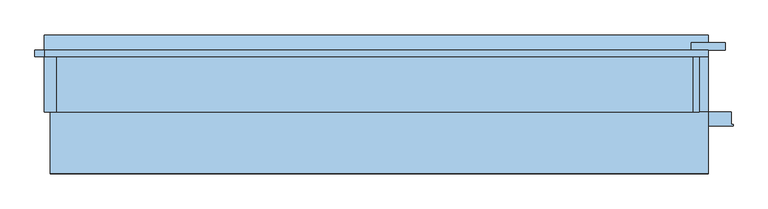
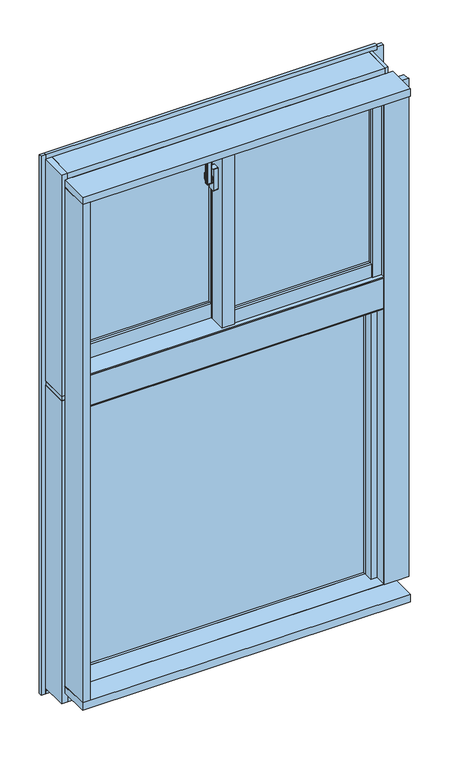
"""IFC4 building model written with IfcOpenShell, lengths in millimetres: window geometry, FNSⅡ100R_非防火_ALC枠_段窓_分解無目 : 引違/引違."""

from ifc_helpers import new_model, si_unit, point, frame, frame_2d, origin, place, context, project, spatial, polyline, circle_curve, trimmed, segment, composite_curve, outline, extrude, faceted_brep, source, transform, mapped, element, save
from ifc_brep_helpers import plane_surface, cylinder_surface, revolved_surface, advanced_brep


def window_f65690d7(model_context):
    return source(origin(), model_context, "Body", "SolidModel", [
        extrude(outline(composite_curve([segment(polyline([(-39.0, 14.6), (-39.0, 6.4)]), True, "CONTINUOUS"), segment(trimmed(circle_curve(frame_2d((-41.0, 6.4)), 2.0), [point((-39.0, 6.4))], [point((-41.3606557, 4.4327869))], False, "CARTESIAN"), True, "CONTINUOUS"), segment(polyline([(-41.3606557, 4.4327869), (-52.3606557, 6.4494536)]), True, "CONTINUOUS"), segment(trimmed(circle_curve(frame_2d((-52.0, 8.4166667)), 2.0), [point((-52.3606557, 6.4494536))], [point((-54.0, 8.4166667))], False, "CARTESIAN"), True, "CONTINUOUS"), segment(polyline([(-54.0, 8.4166667), (-54.0, 12.5833333)]), True, "CONTINUOUS"), segment(trimmed(circle_curve(frame_2d((-52.0, 12.5833333)), 2.0), [point((-54.0, 12.5833333))], [point((-52.3606557, 14.5505464))], False, "CARTESIAN"), True, "CONTINUOUS"), segment(polyline([(-52.3606557, 14.5505464), (-41.3606557, 16.5672131)]), True, "CONTINUOUS"), segment(trimmed(circle_curve(frame_2d((-41.0, 14.6)), 2.0), [point((-41.3606557, 16.5672131))], [point((-39.0, 14.6))], False, "CARTESIAN"), True, "CONTINUOUS")], self_intersect=False)), frame((0.0, 0.0, 2445.0), z_axis=(0.0, 0.0, 1.0), x_axis=(1.0, 0.0, 0.0)), (0.0, 0.0, 1.0), 100.0),
        advanced_brep(
        [(-37.5, 18.8234285, 2476.7333311), (-45.5, 18.8234285, 2476.7333311), (-45.5, 18.4351999, 2475.2844424), (-39.0, 18.4351999, 2475.2844424), (-39.0, 16.6234666, 2468.5229616), (-37.5, 16.6234666, 2468.5229616), (-39.0, 16.6466117, 2434.3190372), (-45.5, 16.6466117, 2434.3190372), (-45.5, 16.907084, 2432.8418256), (-37.5, 16.907084, 2432.8418256), (-37.5, 15.4310745, 2441.2126915), (-39.0, 15.4310745, 2441.2126915)],
        [
            (0, 1),
            (1, 2),
            (2, 3),
            (3, 4),
            (4, 5),
            (5, 0),
            (6, 7),
            (7, 8),
            (8, 9),
            (9, 10),
            (10, 11),
            (11, 6),
            (0, 9, circle_curve(frame((-37.5, 13.0, 2455.0), z_axis=(-1.0, 0.0, 0.0), x_axis=(0.0, 0.25881904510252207, 0.965925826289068)), 22.5)),
            (8, 1, circle_curve(frame((-45.5, 13.0, 2455.0), z_axis=(1.0, 0.0, 0.0), x_axis=(0.0, 0.25881904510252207, 0.965925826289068)), 22.5)),
            (7, 2, circle_curve(frame((-45.5, 13.0, 2455.0), z_axis=(1.0, 0.0, 0.0), x_axis=(0.0, 0.25881904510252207, 0.965925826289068)), 21.0)),
            (6, 3, circle_curve(frame((-39.0, 13.0, 2455.0), z_axis=(1.0, 0.0, 0.0), x_axis=(0.0, 0.25881904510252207, 0.965925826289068)), 21.0)),
            (11, 4, circle_curve(frame((-39.0, 13.0, 2455.0), z_axis=(-1.0, 0.0, 0.0), x_axis=(0.0, -1.0, 0.0)), 14.0)),
            (5, 10, circle_curve(frame((-37.5, 13.0, 2455.0), z_axis=(1.0, 0.0, 0.0), x_axis=(0.0, -1.0, 0.0)), 14.0)),
        ],
        [
            plane_surface(frame((-43.5470497, 13.0, 2455.0), z_axis=(0.0, -0.965925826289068, 0.25881904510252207), x_axis=(0.0, 0.25881904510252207, 0.965925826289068))),
            plane_surface(frame((-43.5470497, 13.0, 2455.0), z_axis=(0.0, -0.9848077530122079, -0.17364817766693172), x_axis=(0.0, 0.17364817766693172, -0.9848077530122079))),
            cylinder_surface(frame((-43.5470497, 13.0, 2455.0), z_axis=(-1.0, 0.0, 0.0), x_axis=(0.0, 0.25881904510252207, 0.965925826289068)), 22.5),
            plane_surface(frame((-45.5, 13.0, 2455.0), z_axis=(-1.0, 0.0, 0.0), x_axis=(0.0, 0.25881904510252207, 0.965925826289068))),
            revolved_surface(polyline([(-45.5, 18.435199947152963, 2475.2844423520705), (-39.0, 18.435199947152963, 2475.2844423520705)]), (-43.5470497, 13.0, 2455.0), (-1.0, 0.0, 0.0)),
            plane_surface(frame((-39.0, 13.0, 2455.0), z_axis=(-1.0, 0.0, 0.0), x_axis=(0.0, 0.25881904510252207, 0.965925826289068))),
            plane_surface(frame((-37.5, 13.0, 2455.0), z_axis=(1.0, 0.0, 0.0), x_axis=(0.0, 0.25881904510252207, 0.965925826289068))),
            cylinder_surface(frame((-37.5, 13.0, 2455.0), z_axis=(-1.0, 0.0, 0.0), x_axis=(0.0, -1.0, 0.0)), 14.0),
        ],
        [
            (0, [[1, 2, 3, 4, 5, 6]]),
            (1, [[7, 8, 9, 10, 11, 12]]),
            (2, [[-1, 13, -9, 14]]),
            (3, [[-2, -14, -8, 15]]),
            (4, [[-3, -15, -7, 16]]),
            (5, [[-16, -12, 17, -4]]),
            (6, [[-13, -6, 18, -10]]),
            (7, [[-17, -11, -18, -5]]),
        ],
    ),
        extrude(outline(composite_curve([segment(trimmed(circle_curve(frame_2d((13.0, 2455.0)), 11.5), [point((24.5, 2455.0))], [point((1.5, 2455.0))], False, "CARTESIAN"), True, "CONTINUOUS"), segment(trimmed(circle_curve(frame_2d((13.0, 2455.0)), 11.5), [point((1.5, 2455.0))], [point((24.5, 2455.0))], False, "CARTESIAN"), True, "CONTINUOUS")], self_intersect=False)), frame((-37.5, 0.0, 0.0), z_axis=(1.0, 0.0, 0.0), x_axis=(0.0, 1.0, 0.0)), (0.0, 0.0, 1.0), 2.5),
        extrude(outline(composite_curve([segment(polyline([(4.0, 2492.5), (22.0, 2492.5)]), True, "CONTINUOUS"), segment(trimmed(circle_curve(frame_2d((22.0, 2490.5)), 2.0), [point((22.0, 2492.5))], [point((24.0, 2490.5))], False, "CARTESIAN"), True, "CONTINUOUS"), segment(polyline([(24.0, 2490.5), (24.0, 2419.5)]), True, "CONTINUOUS"), segment(trimmed(circle_curve(frame_2d((22.0, 2419.5)), 2.0), [point((24.0, 2419.5))], [point((22.0, 2417.5))], False, "CARTESIAN"), True, "CONTINUOUS"), segment(polyline([(22.0, 2417.5), (4.0, 2417.5)]), True, "CONTINUOUS"), segment(trimmed(circle_curve(frame_2d((4.0, 2419.5)), 2.0), [point((4.0, 2417.5))], [point((2.0, 2419.5))], False, "CARTESIAN"), True, "CONTINUOUS"), segment(polyline([(2.0, 2419.5), (2.0, 2490.5)]), True, "CONTINUOUS"), segment(trimmed(circle_curve(frame_2d((4.0, 2490.5)), 2.0), [point((2.0, 2490.5))], [point((4.0, 2492.5))], False, "CARTESIAN"), True, "CONTINUOUS")], self_intersect=False)), frame((-35.0, 0.0, 0.0), z_axis=(1.0, 0.0, 0.0), x_axis=(0.0, 1.0, 0.0)), (0.0, 0.0, 1.0), 15.0),
        extrude(outline(polyline([(20.0, 4.0), (468.0, 4.0), (468.0, -2.0), (20.0, -2.0), (20.0, 4.0)])), frame((0.0, 0.0, 2003.0), z_axis=(0.0, 0.0, 1.0), x_axis=(1.0, 0.0, 0.0)), (0.0, 0.0, 1.0), 567.0),
        extrude(outline(polyline([(20.0, 22.0), (468.0, 22.0), (468.0, 16.0), (20.0, 16.0), (20.0, 22.0)])), frame((0.0, 0.0, 2003.0), z_axis=(0.0, 0.0, 1.0), x_axis=(1.0, 0.0, 0.0)), (0.0, 0.0, 1.0), 567.0),
        extrude(outline(polyline([(-468.0, 62.0), (-20.0, 62.0), (-20.0, 56.0), (-468.0, 56.0), (-468.0, 62.0)])), frame((0.0, 0.0, 2003.0), z_axis=(0.0, 0.0, 1.0), x_axis=(1.0, 0.0, 0.0)), (0.0, 0.0, 1.0), 567.0),
        extrude(outline(polyline([(-468.0, 80.0), (-20.0, 80.0), (-20.0, 74.0), (-468.0, 74.0), (-468.0, 80.0)])), frame((0.0, 0.0, 2003.0), z_axis=(0.0, 0.0, 1.0), x_axis=(1.0, 0.0, 0.0)), (0.0, 0.0, 1.0), 567.0),
        faceted_brep([(-500.0, 59.0, 2610.0), (-489.5, 59.0, 2610.0), (-489.5, 46.0, 2610.0), (-468.0, 46.0, 2610.0), (-468.0, 88.0, 2610.0), (-500.0, 88.0, 2610.0), (-468.0, 59.0, 1915.0), (-500.0, 59.0, 1915.0), (-500.0, 88.0, 1915.0), (-468.0, 88.0, 1915.0), (-468.0, 59.0, 1955.0), (-489.5, 59.0, 1955.0), (-489.5, 46.0, 1955.0), (-468.0, 46.0, 1955.0)], [[[0, 1, 2, 3, 4, 5]], [[6, 7, 8, 9]], [[1, 0, 7, 6, 10, 11]], [[2, 1, 11, 12]], [[3, 2, 12, 13]], [[4, 3, 13, 10, 6, 9]], [[5, 4, 9, 8]], [[7, 0, 5, 8]], [[11, 10, 13, 12]]]),
        faceted_brep([(-20.0, 45.5, 2610.0), (-1.8, 45.5, 2610.0), (-1.8, 33.1, 2610.0), (20.0, 33.1, 2610.0), (20.0, 88.0, 2610.0), (-20.0, 88.0, 2610.0), (-20.0, 88.0, 1915.0), (20.0, 88.0, 1915.0), (20.0, 59.0, 1915.0), (-20.0, 59.0, 1915.0), (-20.0, 45.5, 1955.0), (-1.8, 45.5, 1955.0), (-1.8, 33.1, 1955.0), (20.0, 33.1, 1955.0), (20.0, 59.0, 1955.0), (-20.0, 59.0, 1955.0)], [[[0, 1, 2, 3, 4, 5]], [[6, 7, 8, 9]], [[1, 0, 10, 11]], [[2, 1, 11, 12]], [[3, 2, 12, 13]], [[4, 3, 13, 14, 8, 7]], [[5, 4, 7, 6]], [[0, 5, 6, 9, 15, 10]], [[14, 15, 9, 8]], [[15, 14, 13, 12, 11, 10]]]),
        extrude(outline(polyline([(-20.0, 33.1), (-15.0, 33.1), (-15.0, -12.0), (15.0, -12.0), (15.0, -8.0), (20.0, -8.0), (20.0, -20.0), (-20.0, -20.0), (-20.0, 33.1)])), frame((0.0, 0.0, 1955.0), z_axis=(0.0, 0.0, 1.0), x_axis=(1.0, 0.0, 0.0)), (0.0, 0.0, 1.0), 655.0),
        extrude(outline(polyline([(-15.0, 33.1), (20.0, 33.1), (20.0, -8.0), (15.0, -8.0), (15.0, -12.0), (-15.0, -12.0), (-15.0, 33.1)])), frame((0.0, 0.0, 1955.0), z_axis=(0.0, 0.0, 1.0), x_axis=(1.0, 0.0, 0.0)), (0.0, 0.0, 1.0), 655.0),
        extrude(outline(polyline([(468.0, -20.0), (468.0, -12.0), (489.5, -12.0), (489.5, 1.0), (497.0, 1.0), (497.0, -20.0), (468.0, -20.0)])), frame((0.0, 0.0, 1958.0), z_axis=(0.0, 0.0, 1.0), x_axis=(1.0, 0.0, 0.0)), (0.0, 0.0, 1.0), 652.0),
        extrude(outline(polyline([(468.0, 30.0), (500.0, 30.0), (500.0, 1.0), (489.5, 1.0), (489.5, -12.0), (468.0, -12.0), (468.0, 30.0)])), frame((0.0, 0.0, 1955.0), z_axis=(0.0, 0.0, 1.0), x_axis=(1.0, 0.0, 0.0)), (0.0, 0.0, 1.0), 655.0),
        extrude(outline(polyline([(-1.85, 45.5), (-1.85, 38.0), (-20.0, 38.0), (-20.0, 45.5), (-1.85, 45.5)])), frame((0.0, 0.0, 1955.0), z_axis=(0.0, 0.0, 1.0), x_axis=(1.0, 0.0, 0.0)), (0.0, 0.0, 1.0), 655.0),
        extrude(outline(polyline([(-497.0, 59.0), (-489.5, 59.0), (-489.5, 46.0), (-468.0, 46.0), (-468.0, 38.0), (-497.0, 38.0), (-497.0, 59.0)])), frame((0.0, 0.0, 1955.0), z_axis=(0.0, 0.0, 1.0), x_axis=(1.0, 0.0, 0.0)), (0.0, 0.0, 1.0), 655.0),
        extrude(outline(polyline([(-18.0, 1958.0), (-18.0, 2003.0), (-10.0, 2003.0), (-10.0, 1980.5), (1.0, 1980.5), (1.0, 1958.0), (-18.0, 1958.0)])), frame((20.0, 0.0, 0.0), z_axis=(1.0, 0.0, 0.0), x_axis=(0.0, 1.0, 0.0)), (0.0, 0.0, 1.0), 448.0),
        extrude(outline(polyline([(30.0, 1955.0), (1.0, 1955.0), (1.0, 1980.5), (-10.0, 1980.5), (-10.0, 2003.0), (30.0, 2003.0), (30.0, 1955.0)])), frame((20.0, 0.0, 0.0), z_axis=(1.0, 0.0, 0.0), x_axis=(0.0, 1.0, 0.0)), (0.0, 0.0, 1.0), 448.0),
        extrude(outline(polyline([(40.0, 2003.0), (48.0, 2003.0), (48.0, 1980.5), (59.0, 1980.5), (59.0, 1955.0), (40.0, 1955.0), (40.0, 2003.0)])), frame((-468.0, 0.0, 0.0), z_axis=(1.0, 0.0, 0.0), x_axis=(0.0, 1.0, 0.0)), (0.0, 0.0, 1.0), 448.0),
        extrude(outline(polyline([(88.0, 1915.0), (59.0, 1915.0), (59.0, 1980.5), (48.0, 1980.5), (48.0, 2003.0), (88.0, 2003.0), (88.0, 1915.0)])), frame((-468.0, 0.0, 0.0), z_axis=(1.0, 0.0, 0.0), x_axis=(0.0, 1.0, 0.0)), (0.0, 0.0, 1.0), 448.0),
        extrude(outline(polyline([(3.0, 2590.5), (-10.0, 2590.5), (-10.0, 2570.0), (-18.0, 2570.0), (-18.0, 2610.0), (3.0, 2610.0), (3.0, 2590.5)])), frame((20.0, 0.0, 0.0), z_axis=(1.0, 0.0, 0.0), x_axis=(0.0, 1.0, 0.0)), (0.0, 0.0, 1.0), 448.0),
        extrude(outline(polyline([(30.0, 2610.0), (30.0, 2570.0), (-10.0, 2570.0), (-10.0, 2590.5), (3.0, 2590.5), (3.0, 2610.0), (30.0, 2610.0)])), frame((20.0, 0.0, 0.0), z_axis=(1.0, 0.0, 0.0), x_axis=(0.0, 1.0, 0.0)), (0.0, 0.0, 1.0), 448.0),
        extrude(outline(polyline([(61.0, 2590.5), (48.0, 2590.5), (48.0, 2570.0), (40.0, 2570.0), (40.0, 2610.0), (61.0, 2610.0), (61.0, 2590.5)])), frame((-468.0, 0.0, 0.0), z_axis=(1.0, 0.0, 0.0), x_axis=(0.0, 1.0, 0.0)), (0.0, 0.0, 1.0), 448.0),
        extrude(outline(polyline([(88.0, 2610.0), (88.0, 2570.0), (48.0, 2570.0), (48.0, 2590.5), (61.0, 2590.5), (61.0, 2610.0), (88.0, 2610.0)])), frame((-468.0, 0.0, 0.0), z_axis=(1.0, 0.0, 0.0), x_axis=(0.0, 1.0, 0.0)), (0.0, 0.0, 1.0), 448.0),
        extrude(outline(polyline([(-15.0, 60.3), (-15.0, 11.9), (-500.0, 11.9), (-500.0, 60.3), (-15.0, 60.3)])), frame((0.0, 0.0, 2610.0), z_axis=(0.0, 0.0, 1.0), x_axis=(1.0, 0.0, 0.0)), (0.0, 0.0, 1.0), 25.0),
        faceted_brep([(515.0, 60.3, 2635.0), (515.0, -10.0, 2635.0), (-515.0, -10.0, 2635.0), (-515.0, 60.3, 2635.0), (-15.0, 60.3, 2635.0), (-15.0, 11.9, 2635.0), (500.0, 11.9, 2635.0), (500.0, 60.3, 2635.0), (515.0, 60.3, 2610.0), (500.0, 60.3, 2610.0), (-515.0, 60.3, 2610.0), (-15.0, 60.3, 2610.0), (515.0, 90.0, 2610.0), (500.0, 11.9, 2610.0), (-15.0, 11.9, 2610.0), (-515.0, 90.0, 2610.0), (515.0, 90.0, 2655.0), (-515.0, 90.0, 2655.0), (515.0, -10.0, 2655.0), (-515.0, -10.0, 2655.0)], [[[0, 1, 2, 3, 4, 5, 6, 7]], [[8, 0, 7, 9]], [[3, 10, 11, 4]], [[12, 8, 9, 13, 14, 11, 10, 15]], [[16, 12, 15, 17]], [[18, 16, 17, 19]], [[1, 18, 19, 2]], [[12, 16, 18, 1, 0, 8]], [[15, 10, 3, 2, 19, 17]], [[6, 13, 9, 7]], [[11, 14, 5, 4]], [[13, 6, 5, 14]]]),
        extrude(outline(polyline([(11.9, 2610.0), (-30.0, 2610.0), (-30.0, 2613.0), (-10.0, 2613.0), (-10.0, 2635.0), (11.9, 2635.0), (11.9, 2610.0)])), frame((-500.0, 0.0, 0.0), z_axis=(1.0, 0.0, 0.0), x_axis=(0.0, 1.0, 0.0)), (0.0, 0.0, 1.0), 1000.0),
        faceted_brep([(500.0, -10.0, 2630.0), (515.0, -10.0, 2630.0), (515.0, -5.5, 2630.0), (500.0, -5.5, 2630.0), (500.0, -30.0, 1955.0), (500.0, -5.5, 1955.0), (515.0, -5.5, 1955.0), (515.0, -10.0, 1955.0), (503.0, -10.0, 1955.0), (503.0, -30.0, 1955.0), (503.0, -30.0, 2613.0), (500.0, -30.0, 2613.0), (503.0, -10.0, 2613.0), (500.0, -10.0, 2613.0)], [[[0, 1, 2, 3]], [[4, 5, 6, 7, 8, 9]], [[4, 9, 10, 11]], [[9, 8, 12, 10]], [[0, 13, 12, 8, 7, 1]], [[2, 1, 7, 6]], [[3, 2, 6, 5]], [[5, 4, 11, 13, 0, 3]], [[12, 13, 11, 10]]]),
        faceted_brep([(-515.0, -10.0, 2630.0), (-500.0, -10.0, 2630.0), (-500.0, 56.0, 2630.0), (-515.0, 56.0, 2630.0), (-515.0, -10.0, 1955.0), (-515.0, 56.0, 1955.0), (-500.0, 56.0, 1955.0), (-500.0, -30.0, 1955.0), (-503.0, -30.0, 1955.0), (-503.0, -10.0, 1955.0), (-503.0, -10.0, 2613.0), (-500.0, -10.0, 2613.0), (-503.0, -30.0, 2613.0), (-500.0, -30.0, 2613.0)], [[[0, 1, 2, 3]], [[4, 5, 6, 7, 8, 9]], [[4, 9, 10, 11, 1, 0]], [[9, 8, 12, 10]], [[8, 7, 13, 12]], [[7, 6, 2, 1, 11, 13]], [[3, 2, 6, 5]], [[4, 0, 3, 5]], [[11, 10, 12, 13]]]),
        faceted_brep([(-535.0, 90.0, 2655.0), (-535.0, -10.0, 2655.0), (-515.0, -10.0, 2655.0), (-515.0, 90.0, 2655.0), (-535.0, 90.0, 1895.0), (-515.0, 90.0, 1895.0), (-515.0, -10.0, 1895.0), (-535.0, -10.0, 1895.0), (-515.0, 90.0, 1904.0), (-515.0, 56.0, 1904.0), (-515.0, 56.0, 2610.0), (-515.0, 90.0, 2610.0), (-500.0, 90.0, 2610.0), (-500.0, 90.0, 1904.0), (-500.0, 56.0, 2610.0), (-500.0, 56.0, 1904.0)], [[[0, 1, 2, 3]], [[4, 5, 6, 7]], [[1, 0, 4, 7]], [[2, 1, 7, 6]], [[3, 2, 6, 5, 8, 9, 10, 11]], [[0, 3, 11, 12, 13, 8, 5, 4]], [[12, 11, 10, 14]], [[13, 15, 9, 8]], [[14, 10, 9, 15]], [[12, 14, 15, 13]]]),
        faceted_brep([(515.0, -10.0, 2655.0), (525.0, -10.0, 2655.0), (525.0, 90.0, 2655.0), (515.0, 90.0, 2655.0), (515.0, -10.0, 1895.0), (515.0, 90.0, 1895.0), (525.0, 90.0, 1895.0), (525.0, -10.0, 1895.0), (515.0, -5.5, 2610.0), (500.0, -5.5, 2610.0), (500.0, -5.5, 1904.0), (515.0, -5.5, 1904.0), (500.0, 90.0, 2610.0), (500.0, 90.0, 1904.0), (515.0, 90.0, 2610.0), (515.0, 90.0, 1904.0)], [[[0, 1, 2, 3]], [[4, 5, 6, 7]], [[8, 9, 10, 11]], [[9, 12, 13, 10]], [[9, 8, 14, 12]], [[10, 13, 15, 11]], [[1, 0, 4, 7]], [[2, 1, 7, 6]], [[3, 2, 6, 5, 15, 13, 12, 14]], [[0, 3, 14, 8, 11, 15, 5, 4]]]),
        faceted_brep([(515.0, -10.0, 1939.0), (515.0, 56.0, 1939.0), (-515.0, 56.0, 1939.0), (-515.0, -10.0, 1939.0), (500.0, 17.25, 1939.0), (500.0, -1.2, 1939.0), (-15.0, -1.2, 1939.0), (-15.0, 17.25, 1939.0), (515.0, 56.0, 1904.0), (-515.0, 56.0, 1904.0), (515.0, 90.0, 1904.0), (-515.0, 90.0, 1904.0), (515.0, 90.0, 1895.0), (515.0, -10.0, 1895.0), (-515.0, -10.0, 1895.0), (-515.0, 90.0, 1895.0), (500.0, -1.2, 1955.0), (500.0, 17.25, 1955.0), (-15.0, -1.2, 1955.0), (-15.0, 17.25, 1955.0)], [[[0, 1, 2, 3], [4, 5, 6, 7]], [[1, 8, 9, 2]], [[8, 10, 11, 9]], [[12, 13, 14, 15]], [[12, 10, 8, 1, 0, 13]], [[15, 14, 3, 2, 9, 11]], [[13, 0, 3, 14]], [[10, 12, 15, 11]], [[16, 5, 4, 17]], [[18, 19, 7, 6]], [[5, 16, 18, 6]], [[17, 4, 7, 19]], [[16, 17, 19, 18]]]),
        faceted_brep([(503.0, -30.0, 1955.0), (503.0, -30.0, 1952.0), (503.0, -10.0, 1952.0), (503.0, -10.0, 1939.0), (503.0, -5.5, 1939.0), (503.0, -5.5, 1955.0), (-503.0, -10.0, 1939.0), (-503.0, -10.0, 1952.0), (-503.0, -30.0, 1952.0), (-503.0, -30.0, 1955.0), (-503.0, -1.2, 1955.0), (-503.0, -1.2, 1939.0), (500.0, -5.5, 1955.0), (500.0, -1.2, 1955.0), (-15.0, -1.2, 1955.0), (-15.0, 56.0, 1955.0), (-500.0, 56.0, 1955.0), (-500.0, -1.2, 1955.0), (-500.0, -1.2, 1939.0), (500.0, -1.2, 1939.0), (-15.0, -1.2, 1939.0), (-500.0, 56.0, 1939.0), (-15.0, 56.0, 1939.0), (500.0, -5.5, 1939.0)], [[[0, 1, 2, 3, 4, 5]], [[6, 7, 8, 9, 10, 11]], [[3, 2, 7, 6]], [[2, 1, 8, 7]], [[1, 0, 9, 8]], [[10, 9, 0, 5, 12, 13, 14, 15, 16, 17]], [[11, 10, 17, 18]], [[13, 19, 20, 14]], [[6, 11, 18, 21, 22, 20, 19, 23, 4, 3]], [[12, 23, 19, 13]], [[23, 12, 5, 4]], [[15, 14, 20, 22]], [[16, 21, 18, 17]], [[15, 22, 21, 16]]]),
        extrude(outline(polyline([(-480.0, 55.6), (480.0, 55.6), (480.0, 49.6), (-480.0, 49.6), (-480.0, 55.6)])), frame((0.0, 0.0, 900.0), z_axis=(0.0, 0.0, 1.0), x_axis=(1.0, 0.0, 0.0)), (0.0, 0.0, 1.0), 925.0),
        extrude(outline(polyline([(-480.0, 73.6), (480.0, 73.6), (480.0, 67.6), (-480.0, 67.6), (-480.0, 73.6)])), frame((0.0, 0.0, 900.0), z_axis=(0.0, 0.0, 1.0), x_axis=(1.0, 0.0, 0.0)), (0.0, 0.0, 1.0), 925.0),
        faceted_brep([(-535.0, 90.0, 1880.0), (-535.0, -10.0, 1880.0), (-515.0, -10.0, 1880.0), (-515.0, 90.0, 1880.0), (-535.0, 90.0, 840.0), (-515.0, 90.0, 840.0), (-515.0, -10.0, 840.0), (-535.0, -10.0, 840.0), (-515.0, 90.0, 900.0), (-515.0, 40.0, 900.0), (-515.0, 40.0, 1825.0), (-515.0, 90.0, 1825.0), (-480.0, 90.0, 1825.0), (-480.0, 90.0, 900.0), (-480.0, 40.0, 1825.0), (-480.0, 40.0, 900.0)], [[[0, 1, 2, 3]], [[4, 5, 6, 7]], [[1, 0, 4, 7]], [[2, 1, 7, 6]], [[3, 2, 6, 5, 8, 9, 10, 11]], [[0, 3, 11, 12, 13, 8, 5, 4]], [[12, 11, 10, 14]], [[13, 15, 9, 8]], [[14, 10, 9, 15]], [[12, 14, 15, 13]]]),
        faceted_brep([(525.0, 90.0, 1880.0), (515.0, 90.0, 1880.0), (515.0, -10.0, 1880.0), (525.0, -10.0, 1880.0), (525.0, 90.0, 840.0), (525.0, -10.0, 840.0), (515.0, -10.0, 840.0), (515.0, 90.0, 840.0), (515.0, 90.0, 900.0), (480.0, 90.0, 900.0), (480.0, 90.0, 1825.0), (515.0, 90.0, 1825.0), (515.0, 40.0, 1825.0), (515.0, 40.0, 900.0), (480.0, 40.0, 1825.0), (480.0, 40.0, 900.0)], [[[0, 1, 2, 3]], [[4, 5, 6, 7]], [[1, 0, 4, 7, 8, 9, 10, 11]], [[2, 1, 11, 12, 13, 8, 7, 6]], [[3, 2, 6, 5]], [[0, 3, 5, 4]], [[11, 10, 14, 12]], [[13, 15, 9, 8]], [[14, 10, 9, 15]], [[12, 14, 15, 13]]]),
        extrude(outline(polyline([(500.0, -30.0), (500.0, 8.5), (480.0, 8.5), (480.0, 40.0), (515.0, 40.0), (515.0, -10.0), (503.0, -10.0), (503.0, -30.0), (500.0, -30.0)])), frame((0.0, 0.0, 900.0), z_axis=(0.0, 0.0, 1.0), x_axis=(1.0, 0.0, 0.0)), (0.0, 0.0, 1.0), 945.0),
        extrude(outline(polyline([(-515.0, -10.0), (-515.0, 40.0), (-480.0, 40.0), (-480.0, 8.5), (-500.0, 8.5), (-500.0, -30.0), (-503.0, -30.0), (-503.0, -10.0), (-515.0, -10.0)])), frame((0.0, 0.0, 900.0), z_axis=(0.0, 0.0, 1.0), x_axis=(1.0, 0.0, 0.0)), (0.0, 0.0, 1.0), 945.0),
        extrude(outline(polyline([(-10.0, 884.0), (-10.0, 897.0), (-30.0, 897.0), (-30.0, 900.0), (40.0, 900.0), (40.0, 884.0), (-10.0, 884.0)])), frame((-503.0, 0.0, 0.0), z_axis=(1.0, 0.0, 0.0), x_axis=(0.0, 1.0, 0.0)), (0.0, 0.0, 1.0), 1006.0),
        extrude(outline(polyline([(90.0, 840.0), (-10.0, 840.0), (-10.0, 884.0), (40.0, 884.0), (40.0, 900.0), (90.0, 900.0), (90.0, 870.0), (71.0, 870.0), (71.0, 850.0), (90.0, 850.0), (90.0, 840.0)])), frame((-515.0, 0.0, 0.0), z_axis=(1.0, 0.0, 0.0), x_axis=(0.0, 1.0, 0.0)), (0.0, 0.0, 1.0), 1030.0),
        extrude(outline(polyline([(40.0, 1822.0), (6.0, 1822.0), (6.0, 1845.0), (-30.0, 1845.0), (-30.0, 1848.0), (-10.0, 1848.0), (-10.0, 1860.0), (40.0, 1860.0), (40.0, 1822.0)])), frame((-503.0, 0.0, 0.0), z_axis=(1.0, 0.0, 0.0), x_axis=(0.0, 1.0, 0.0)), (0.0, 0.0, 1.0), 1006.0),
        extrude(outline(polyline([(90.0, 1825.0), (40.0, 1825.0), (40.0, 1860.0), (-10.0, 1860.0), (-10.0, 1880.0), (90.0, 1880.0), (90.0, 1825.0)])), frame((-515.0, 0.0, 0.0), z_axis=(1.0, 0.0, 0.0), x_axis=(0.0, 1.0, 0.0)), (0.0, 0.0, 1.0), 1030.0),
        extrude(outline(polyline([(-110.0, 900.0), (-30.0, 900.0), (-30.0, 897.0), (-10.0, 897.0), (-10.0, 875.0), (-110.0, 875.0), (-110.0, 900.0)])), frame((-525.0, 0.0, 0.0), z_axis=(1.0, 0.0, 0.0), x_axis=(0.0, 1.0, 0.0)), (0.0, 0.0, 1.0), 1065.0),
        extrude(outline(polyline([(-535.0, 80.0), (-535.0, 90.0), (540.0, 90.0), (540.0, 80.0), (-535.0, 80.0)])), frame((0.0, 0.0, 830.0), z_axis=(0.0, 0.0, 1.0), x_axis=(1.0, 0.0, 0.0)), (0.0, 0.0, 1.0), 10.0),
        extrude(outline(polyline([(100.0, 807.0), (100.0, 820.0), (80.0, 820.0), (80.0, 830.0), (90.0, 830.0), (115.0, 825.0), (115.0, 807.0), (100.0, 807.0)])), frame((-535.0, 0.0, 0.0), z_axis=(1.0, 0.0, 0.0), x_axis=(0.0, 1.0, 0.0)), (0.0, 0.0, 1.0), 1075.0),
        extrude(outline(polyline([(-503.0, -10.0), (-503.0, -30.0), (-500.0, -30.0), (-500.0, -110.0), (-525.0, -110.0), (-525.0, -10.0), (-503.0, -10.0)])), frame((0.0, 0.0, 900.0), z_axis=(0.0, 0.0, 1.0), x_axis=(1.0, 0.0, 0.0)), (0.0, 0.0, 1.0), 1710.0),
        extrude(outline(polyline([(-550.0, 90.0), (-535.0, 90.0), (-535.0, 80.0), (-550.0, 80.0), (-550.0, 90.0)])), frame((0.0, 0.0, 820.0), z_axis=(0.0, 0.0, 1.0), x_axis=(1.0, 0.0, 0.0)), (0.0, 0.0, 1.0), 1850.0),
        extrude(outline(polyline([(503.0, -30.0), (503.0, -10.0), (577.0, -10.0), (577.0, -30.0), (580.0, -30.0), (580.0, -32.5), (500.0, -32.5), (500.0, -30.0), (503.0, -30.0)])), frame((0.0, 0.0, 900.0), z_axis=(0.0, 0.0, 1.0), x_axis=(1.0, 0.0, 0.0)), (0.0, 0.0, 1.0), 1710.0),
        extrude(outline(polyline([(567.5, 90.0), (512.5, 90.0), (512.5, 102.0), (567.5, 102.0), (567.5, 90.0)])), frame((0.0, 0.0, 840.0), z_axis=(0.0, 0.0, 1.0), x_axis=(1.0, 0.0, 0.0)), (0.0, 0.0, 1.0), 1815.0),
        extrude(outline(polyline([(-110.0, 2635.0), (-10.0, 2635.0), (-10.0, 2613.0), (-30.0, 2613.0), (-30.0, 2610.0), (-110.0, 2610.0), (-110.0, 2635.0)])), frame((-525.0, 0.0, 0.0), z_axis=(1.0, 0.0, 0.0), x_axis=(0.0, 1.0, 0.0)), (0.0, 0.0, 1.0), 1065.0),
        extrude(outline(polyline([(-500.0, -30.0), (-500.0, -10.0), (500.0, -10.0), (500.0, -30.0), (-500.0, -30.0)])), frame((0.0, 0.0, 1848.0), z_axis=(0.0, 0.0, 1.0), x_axis=(1.0, 0.0, 0.0)), (0.0, 0.0, 1.0), 104.0),
        extrude(outline(polyline([(-535.0, -10.0), (-535.0, 90.0), (540.0, 90.0), (540.0, -10.0), (-535.0, -10.0)])), frame((0.0, 0.0, 1880.0), z_axis=(0.0, 0.0, 1.0), x_axis=(1.0, 0.0, 0.0)), (0.0, 0.0, 1.0), 15.0),
        extrude(outline(polyline([(-535.0, 80.0), (-535.0, 90.0), (540.0, 90.0), (540.0, 80.0), (-535.0, 80.0)])), frame((0.0, 0.0, 2655.0), z_axis=(0.0, 0.0, 1.0), x_axis=(1.0, 0.0, 0.0)), (0.0, 0.0, 1.0), 15.0),
    ])


if __name__ == "__main__":
    model = new_model("IFC4")
    model_context = context("Model", 3, world=origin())
    ifc_project = project(units=[si_unit("LENGTHUNIT", "METRE", prefix="MILLI")], contexts=[model_context])
    site = spatial("IfcSite", under=ifc_project)
    building = spatial("IfcBuilding", under=site)
    placement = place(None, origin())
    window_shape = window_f65690d7(model_context)
    element("IfcWindow", 1, ObjectType="FNSⅡ100R_非防火_ALC枠_段窓_分解無目 : 引違/引違", at=placement, inside=building, context=model_context, shape_type="MappedRepresentation", body=[
        mapped(window_shape, transform((0.0, 0.0, 0.0), x_axis=(1.0, 0.0, 0.0), y_axis=(0.0, 1.0, 0.0), z_axis=(0.0, 0.0, 1.0))),
    ])
    save(model, "model.ifc")
